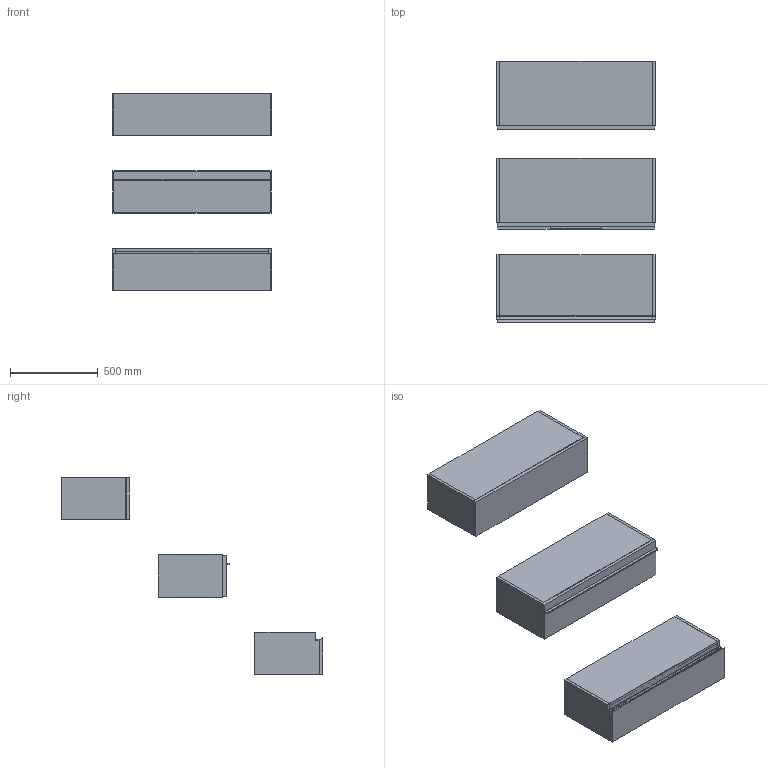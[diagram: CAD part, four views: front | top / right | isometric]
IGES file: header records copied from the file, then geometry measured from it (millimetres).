
Start section: Data from Parasolid IGES Translator 19.0.9, Copyright(c) 2006 Siemens PL M Software. All Rights Reserved.
Global section: file name: noorth-SI-H 24 D 38,8 W 90_8247.igs; native system: By Siemens PLM Incorporated; preprocessor: XPlus GENERIC/IGES 19.0.9; author: Noname; organization: Noname; date: 20200530.104624; units: metre
Bounding box: 900.01 x 1485.97 x 1120 mm (x, y, z)
Volume: 51881196.3 mm3; surface area: 7782299.6 mm2
Topology: 20 solids, 20 shells, 178 faces, 382 edges, 234 vertices
Faces by surface type: plane 134, extrusion 16, bspline 16, cylinder 12
